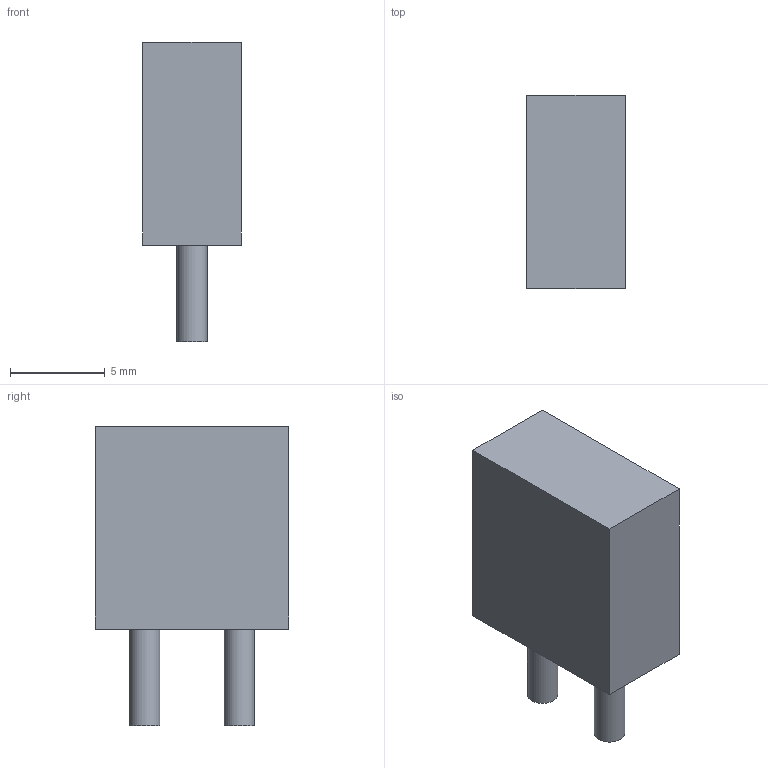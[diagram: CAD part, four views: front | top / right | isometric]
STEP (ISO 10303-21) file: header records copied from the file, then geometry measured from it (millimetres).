
FILE_DESCRIPTION(('FreeCAD Model'),'2;1');
FILE_NAME('/var/www/3D/0T/11140213.1.1.stp','2020-04-12T11:18:36',( 'Author'),(''),'Open CASCADE STEP processor 6.9','FreeCAD','Unknown' );
FILE_SCHEMA(('AUTOMOTIVE_DESIGN { 1 0 10303 214 1 1 1 1 }'));
Length unit declared in the file: millimetre
Products named in the file (3): ASSEMBLY; Body; Leads
Assembly tree (3 placements, depth 2):
  ASSEMBLY
    Body
    Leads  x2
Bounding box: 5.2 x 10.2 x 15.8 mm (x, y, z)
Volume: 608.5 mm3; surface area: 554.3 mm2
Topology: 5 solids, 5 shells, 18 faces, 24 edges, 16 vertices
Faces by surface type: plane 14, cylinder 4
Full cylindrical faces by diameter (mm): 1.6 x4
Entity records: 581 total; most frequent: DIRECTION 90, CARTESIAN_POINT 82, LINE 46, VECTOR 46, ORIENTED_EDGE 36, PCURVE 36, DEFINITIONAL_REPRESENTATION 36, AXIS2_PLACEMENT_3D 20
